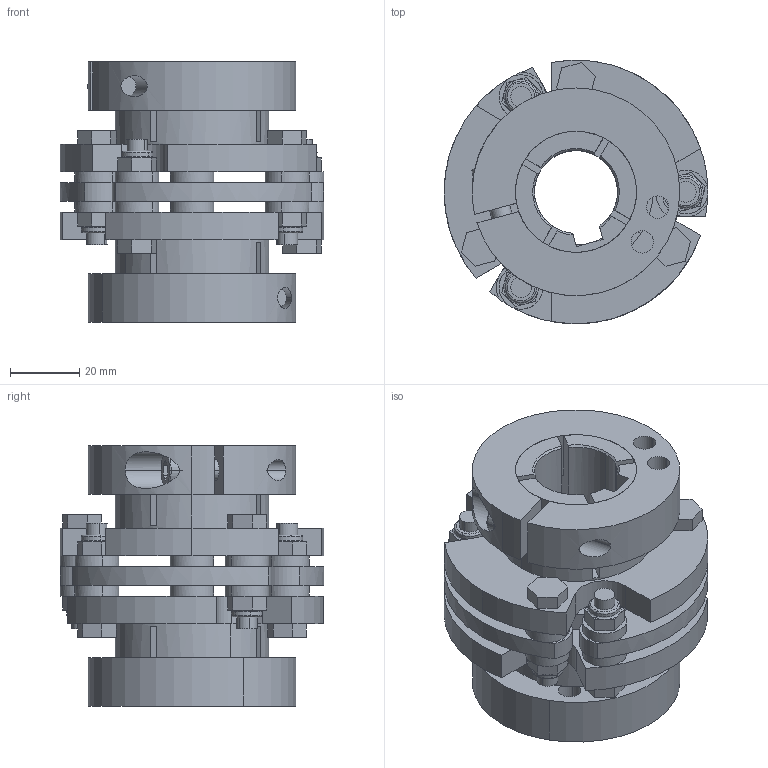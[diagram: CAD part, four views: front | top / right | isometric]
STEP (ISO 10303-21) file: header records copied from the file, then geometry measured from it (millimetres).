
FILE_DESCRIPTION (( 'STEP AP214' ), '1' );
FILE_NAME ('ZERO MAX-6A30C (24mm w key , 24mm w key).step', '2013-08-16T09:54:10', ( 'Windows User' ), ( '' ), 'SwSTEP 2.0', 'SolidWorks 2013', '' );
FILE_SCHEMA (( 'AUTOMOTIVE_DESIGN' ));
Length unit declared in the file: inch
Products named in the file (4): ZERO MAX-6A30C (24mm w key , 24mm w key)_Hub_Clamp_Style_6A30C-24mm kwy; ZERO MAX-6A30C (24mm w key , 24mm w key)_6A LH Center_6A30C LH CENTER; ZERO MAX-6A30C (24mm w key , 24mm w key)_6A30C LH CENTER; ZERO MAX-6A30C (24mm w key , 24mm w key)
Assembly tree (4 placements, depth 3):
  ZERO MAX-6A30C (24mm w key , 24mm w key)
    ZERO MAX-6A30C (24mm w key , 24mm w key)_6A LH Center_6A30C LH CENTER
      ZERO MAX-6A30C (24mm w key , 24mm w key)_6A30C LH CENTER
    ZERO MAX-6A30C (24mm w key , 24mm w key)_Hub_Clamp_Style_6A30C-24mm kwy  x2
Bounding box: 76.2 x 76.2 x 75.18 mm (x, y, z)
Volume: 159854.8 mm3; surface area: 69562.7 mm2
Topology: 7 solids, 7 shells, 564 faces, 1456 edges, 954 vertices
Faces by surface type: plane 268, cylinder 250, bspline 24, cone 18, torus 4
Entity records: 16029 total; most frequent: CARTESIAN_POINT 3707, DIRECTION 2484, ORIENTED_EDGE 2370, EDGE_CURVE 1185, AXIS2_PLACEMENT_3D 964, VERTEX_POINT 775, VECTOR 556, LINE 556
